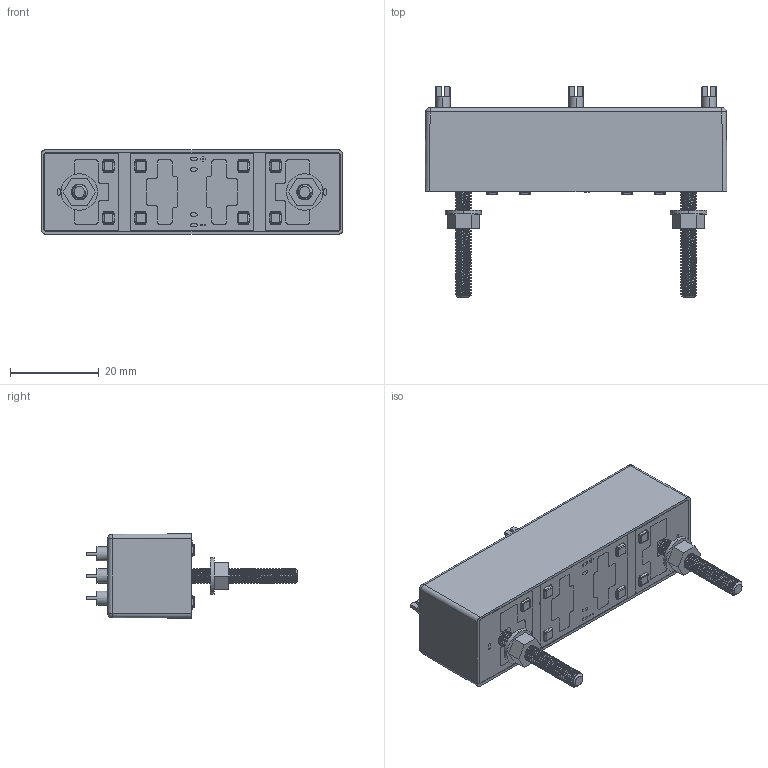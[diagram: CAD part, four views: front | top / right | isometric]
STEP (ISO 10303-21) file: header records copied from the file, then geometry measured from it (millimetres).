
FILE_DESCRIPTION (( 'STEP AP203' ), '1' );
FILE_NAME ('Series 600 - 620 1A or B TL-1.STEP', '2025-07-01T09:10:39', ( '' ), ( '' ), 'SwSTEP 2.0', 'SolidWorks 2023', '' );
FILE_SCHEMA (( 'CONFIG_CONTROL_DESIGN' ));
Products named in the file (1): Series 600 - 620 1A or B TL-1
Bounding box: 68 x 47.65 x 19 mm (x, y, z)
Volume: 3765.6 mm3; surface area: 13094.6 mm2
Topology: 41 solids, 41 shells, 1161 faces, 3050 edges, 1976 vertices
Faces by surface type: cylinder 540, plane 475, bspline 104, sphere 36, cone 6
Entity records: 51943 total; most frequent: CARTESIAN_POINT 24972, ORIENTED_EDGE 6100, DIRECTION 5192, EDGE_CURVE 3050, VERTEX_POINT 1976, AXIS2_PLACEMENT_3D 1790, LINE 1612, VECTOR 1612
